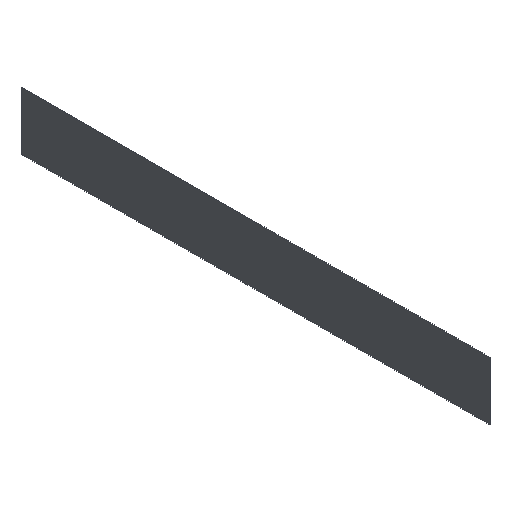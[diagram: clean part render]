
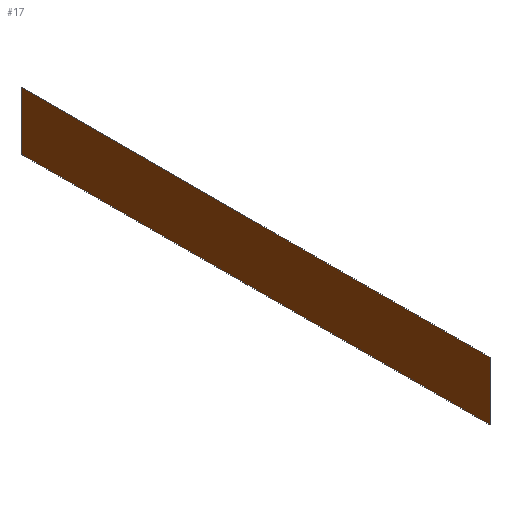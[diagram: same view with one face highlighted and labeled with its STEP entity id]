
A CAD part, isometric view. The second image highlights one B-rep face of the part: STEP entity #17.
In plain terms, the highlighted planar face has unit normal (-1, 0, 0).
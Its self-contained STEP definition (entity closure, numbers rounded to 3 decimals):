
#17 = ADVANCED_FACE('',(#18),#52,.F.);
#18 = FACE_BOUND('',#19,.F.);
#19 = EDGE_LOOP('',(#20,#30,#38,#46));
#20 = ORIENTED_EDGE('',*,*,#21,.F.);
#21 = EDGE_CURVE('',#22,#24,#26,.T.);
#22 = VERTEX_POINT('',#23);
#23 = CARTESIAN_POINT('',(0.,0.,0.));
#24 = VERTEX_POINT('',#25);
#25 = CARTESIAN_POINT('',(0.,0.,10.));
#26 = LINE('',#27,#28);
#27 = CARTESIAN_POINT('',(0.,0.,0.));
#28 = VECTOR('',#29,1.);
#29 = DIRECTION('',(0.,0.,1.));
#30 = ORIENTED_EDGE('',*,*,#31,.T.);
#31 = EDGE_CURVE('',#22,#32,#34,.T.);
#32 = VERTEX_POINT('',#33);
#33 = CARTESIAN_POINT('',(0.,80.,0.));
#34 = LINE('',#35,#36);
#35 = CARTESIAN_POINT('',(0.,0.,0.));
#36 = VECTOR('',#37,1.);
#37 = DIRECTION('',(0.,1.,0.));
#38 = ORIENTED_EDGE('',*,*,#39,.T.);
#39 = EDGE_CURVE('',#32,#40,#42,.T.);
#40 = VERTEX_POINT('',#41);
#41 = CARTESIAN_POINT('',(0.,80.,10.));
#42 = LINE('',#43,#44);
#43 = CARTESIAN_POINT('',(0.,80.,0.));
#44 = VECTOR('',#45,1.);
#45 = DIRECTION('',(0.,0.,1.));
#46 = ORIENTED_EDGE('',*,*,#47,.F.);
#47 = EDGE_CURVE('',#24,#40,#48,.T.);
#48 = LINE('',#49,#50);
#49 = CARTESIAN_POINT('',(0.,0.,10.));
#50 = VECTOR('',#51,1.);
#51 = DIRECTION('',(0.,1.,0.));
#52 = PLANE('',#53);
#53 = AXIS2_PLACEMENT_3D('',#54,#55,#56);
#54 = CARTESIAN_POINT('',(0.,0.,0.));
#55 = DIRECTION('',(1.,0.,0.));
#56 = DIRECTION('',(0.,0.,1.));
